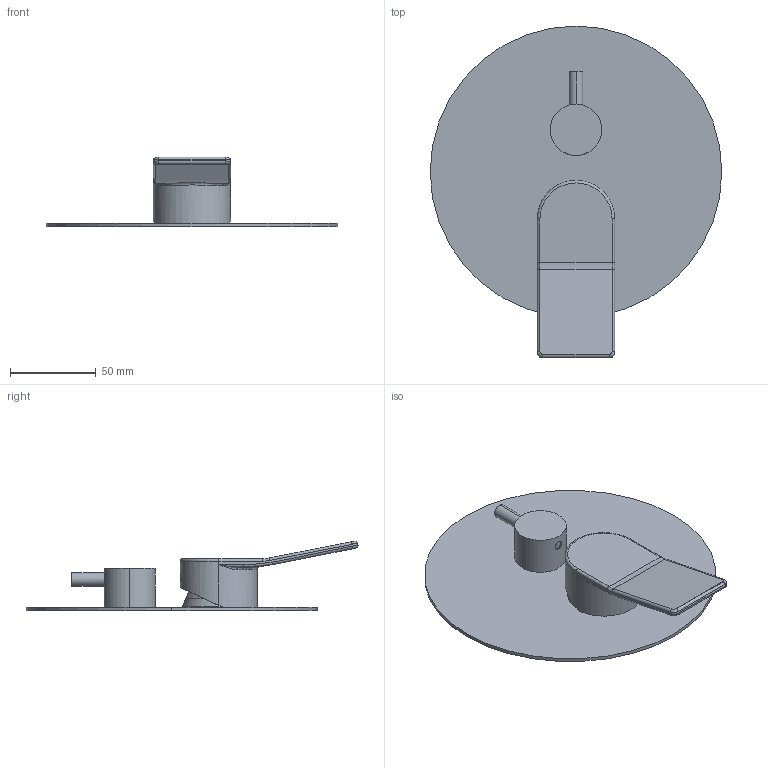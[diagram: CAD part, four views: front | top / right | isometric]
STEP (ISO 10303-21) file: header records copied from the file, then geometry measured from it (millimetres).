
FILE_DESCRIPTION (( 'STEP AP203' ), '1' );
FILE_NAME ('85122210 x architetti.STEP', '2026-06-15T14:38:10', ( '' ), ( '' ), 'SwSTEP 2.0', 'SolidWorks 2020', '' );
FILE_SCHEMA (( 'CONFIG_CONTROL_DESIGN' ));
Length unit declared in the file: millimetre
Products named in the file (1): 85122210 x architetti
Bounding box: 170 x 193.56 x 40.7 mm (x, y, z)
Volume: 110420.6 mm3; surface area: 69940.7 mm2
Topology: 1 solids, 1 shells, 94 faces, 213 edges, 128 vertices
Faces by surface type: cylinder 44, plane 21, bspline 14, cone 7, torus 4, sphere 4
Entity records: 3694 total; most frequent: CARTESIAN_POINT 1612, ORIENTED_EDGE 422, DIRECTION 414, EDGE_CURVE 211, AXIS2_PLACEMENT_3D 172, VERTEX_POINT 128, EDGE_LOOP 105, FACE_OUTER_BOUND 94
